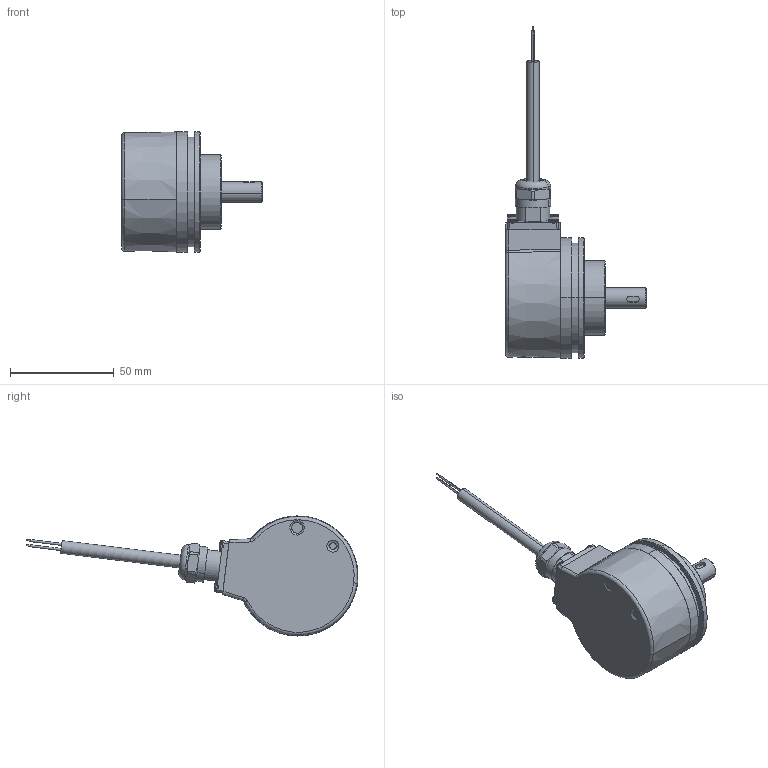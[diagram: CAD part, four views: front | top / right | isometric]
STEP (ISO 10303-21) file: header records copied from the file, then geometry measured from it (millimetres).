
FILE_DESCRIPTION (( 'STEP AP214' ), '1' );
FILE_NAME ('5814SIL.1AX2.XXXX.STEP', '2010-07-22T06:38:14', ( 'admin' ), ( 'Fritz Kübler GmbH' ), 'SwSTEP 2.0', 'SolidWorks 2009', '' );
FILE_SCHEMA (( 'AUTOMOTIVE_DESIGN' ));
Length unit declared in the file: millimetre
Products named in the file (1): 5814SIL.1AX2.XXXX
Bounding box: 68 x 160.21 x 58 mm (x, y, z)
Surface area: 21714.2 mm2 (no closed solid volume)
Topology: 0 solids, 12 shells, 239 faces, 599 edges, 384 vertices
Faces by surface type: plane 90, cylinder 67, cone 48, torus 22, sphere 8, bspline 4
Entity records: 10412 total; most frequent: CARTESIAN_POINT 1899, DIRECTION 1343, ORIENTED_EDGE 1104, EDGE_CURVE 599, AXIS2_PLACEMENT_3D 550, VERTEX_POINT 384, CIRCLE 314, EDGE_LOOP 275
